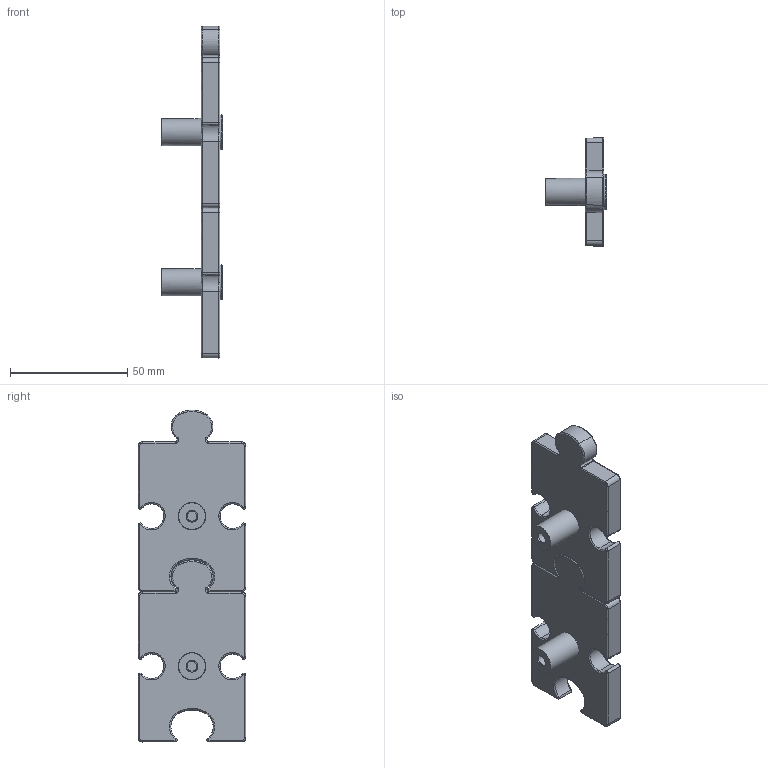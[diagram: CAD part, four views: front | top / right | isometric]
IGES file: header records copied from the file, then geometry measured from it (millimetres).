
Start section: C
Global section: file name: 8131-142.igs; native system: By Siemens PLM Incorporated; preprocessor: XPlus GENERIC/IGES 16.0.42; author: Author; organization: Title; date: 20231122.134808; units: millimetre
Bounding box: 26.2 x 45.99 x 141.59 mm (x, y, z)
Surface area: 21329.1 mm2 (no closed solid volume)
Topology: 0 solids, 0 shells, 262 faces, 1316 edges, 1314 vertices
Faces by surface type: bspline 262
